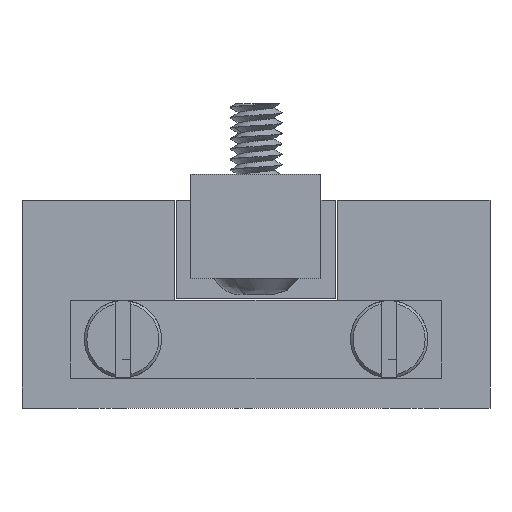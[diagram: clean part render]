
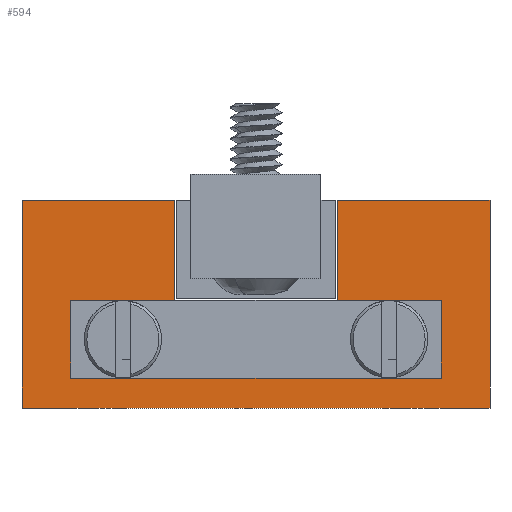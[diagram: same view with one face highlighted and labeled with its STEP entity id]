
A CAD part, front view. The second image highlights one B-rep face of the part: STEP entity #594.
In plain terms, the highlighted planar face has unit normal (0, -1, 0).
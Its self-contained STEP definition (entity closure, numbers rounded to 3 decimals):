
#594=ADVANCED_FACE('',(#898),#817,.F.);
#817=PLANE('',#3875);
#898=FACE_OUTER_BOUND('',#1112,.T.);
#1112=EDGE_LOOP('',(#1352,#1353,#1354,#1355,#1356,#1357,#1358,#1359,#1360,
#1361,#1362,#1363));
#1352=ORIENTED_EDGE('',*,*,#2862,.F.);
#1353=ORIENTED_EDGE('',*,*,#2863,.T.);
#1354=ORIENTED_EDGE('',*,*,#2864,.F.);
#1355=ORIENTED_EDGE('',*,*,#2865,.F.);
#1356=ORIENTED_EDGE('',*,*,#2866,.F.);
#1357=ORIENTED_EDGE('',*,*,#2867,.T.);
#1358=ORIENTED_EDGE('',*,*,#2868,.F.);
#1359=ORIENTED_EDGE('',*,*,#2869,.F.);
#1360=ORIENTED_EDGE('',*,*,#2870,.F.);
#1361=ORIENTED_EDGE('',*,*,#2871,.F.);
#1362=ORIENTED_EDGE('',*,*,#2872,.F.);
#1363=ORIENTED_EDGE('',*,*,#2873,.F.);
#2488=VERTEX_POINT('',#4914);
#2489=VERTEX_POINT('',#4915);
#2490=VERTEX_POINT('',#4917);
#2491=VERTEX_POINT('',#4919);
#2492=VERTEX_POINT('',#4921);
#2493=VERTEX_POINT('',#4923);
#2494=VERTEX_POINT('',#4925);
#2495=VERTEX_POINT('',#4927);
#2496=VERTEX_POINT('',#4929);
#2497=VERTEX_POINT('',#4931);
#2498=VERTEX_POINT('',#4933);
#2499=VERTEX_POINT('',#4935);
#2862=EDGE_CURVE('',#2488,#2489,#3430,.T.);
#2863=EDGE_CURVE('',#2488,#2490,#3431,.T.);
#2864=EDGE_CURVE('',#2491,#2490,#3432,.T.);
#2865=EDGE_CURVE('',#2492,#2491,#3433,.T.);
#2866=EDGE_CURVE('',#2493,#2492,#3434,.T.);
#2867=EDGE_CURVE('',#2493,#2494,#3435,.T.);
#2868=EDGE_CURVE('',#2495,#2494,#3436,.T.);
#2869=EDGE_CURVE('',#2496,#2495,#3437,.T.);
#2870=EDGE_CURVE('',#2497,#2496,#3438,.T.);
#2871=EDGE_CURVE('',#2498,#2497,#3439,.T.);
#2872=EDGE_CURVE('',#2499,#2498,#3440,.T.);
#2873=EDGE_CURVE('',#2489,#2499,#3441,.T.);
#3430=LINE('',#4913,#3652);
#3431=LINE('',#4916,#3653);
#3432=LINE('',#4918,#3654);
#3433=LINE('',#4920,#3655);
#3434=LINE('',#4922,#3656);
#3435=LINE('',#4924,#3657);
#3436=LINE('',#4926,#3658);
#3437=LINE('',#4928,#3659);
#3438=LINE('',#4930,#3660);
#3439=LINE('',#4932,#3661);
#3440=LINE('',#4934,#3662);
#3441=LINE('',#4936,#3663);
#3652=VECTOR('',#4148,1.);
#3653=VECTOR('',#4149,1.);
#3654=VECTOR('',#4150,1.);
#3655=VECTOR('',#4151,1.);
#3656=VECTOR('',#4152,1.);
#3657=VECTOR('',#4153,1.);
#3658=VECTOR('',#4154,1.);
#3659=VECTOR('',#4155,1.);
#3660=VECTOR('',#4156,1.);
#3661=VECTOR('',#4157,1.);
#3662=VECTOR('',#4158,1.);
#3663=VECTOR('',#4159,1.);
#3875=AXIS2_PLACEMENT_3D('',#4937,#4160,#4161);
#4148=DIRECTION('',(0.,0.,-1.));
#4149=DIRECTION('',(-1.,0.,0.));
#4150=DIRECTION('',(0.,0.,1.));
#4151=DIRECTION('',(-1.,0.,0.));
#4152=DIRECTION('',(0.,0.,-1.));
#4153=DIRECTION('',(-1.,0.,0.));
#4154=DIRECTION('',(0.,0.,1.));
#4155=DIRECTION('',(-1.,0.,0.));
#4156=DIRECTION('',(0.,0.,1.));
#4157=DIRECTION('',(1.,0.,0.));
#4158=DIRECTION('',(0.,0.,-1.));
#4159=DIRECTION('',(-1.,0.,0.));
#4160=DIRECTION('',(0.,1.,0.));
#4161=DIRECTION('',(0.,0.,1.));
#4913=CARTESIAN_POINT('',(-77.62,24.143,7.623));
#4914=CARTESIAN_POINT('',(-77.62,24.143,7.623));
#4915=CARTESIAN_POINT('',(-77.62,24.143,3.773));
#4916=CARTESIAN_POINT('',(-83.5,24.143,7.623));
#4917=CARTESIAN_POINT('',(-83.5,24.143,7.623));
#4918=CARTESIAN_POINT('',(-83.5,24.143,-0.377));
#4919=CARTESIAN_POINT('',(-83.5,24.143,-0.377));
#4920=CARTESIAN_POINT('',(-65.5,24.143,-0.377));
#4921=CARTESIAN_POINT('',(-65.5,24.143,-0.377));
#4922=CARTESIAN_POINT('',(-65.5,24.143,7.623));
#4923=CARTESIAN_POINT('',(-65.5,24.143,7.623));
#4924=CARTESIAN_POINT('',(-71.38,24.143,7.623));
#4925=CARTESIAN_POINT('',(-71.38,24.143,7.623));
#4926=CARTESIAN_POINT('',(-71.38,24.143,3.773));
#4927=CARTESIAN_POINT('',(-71.38,24.143,3.773));
#4928=CARTESIAN_POINT('',(-74.5,24.143,3.773));
#4929=CARTESIAN_POINT('',(-67.38,24.143,3.773));
#4930=CARTESIAN_POINT('',(-67.38,24.143,0.823));
#4931=CARTESIAN_POINT('',(-67.38,24.143,0.773));
#4932=CARTESIAN_POINT('',(-74.5,24.143,0.773));
#4933=CARTESIAN_POINT('',(-81.62,24.143,0.773));
#4934=CARTESIAN_POINT('',(-81.62,24.143,3.823));
#4935=CARTESIAN_POINT('',(-81.62,24.143,3.773));
#4936=CARTESIAN_POINT('',(-74.5,24.143,3.773));
#4937=CARTESIAN_POINT('',(0.,24.143,0.));
